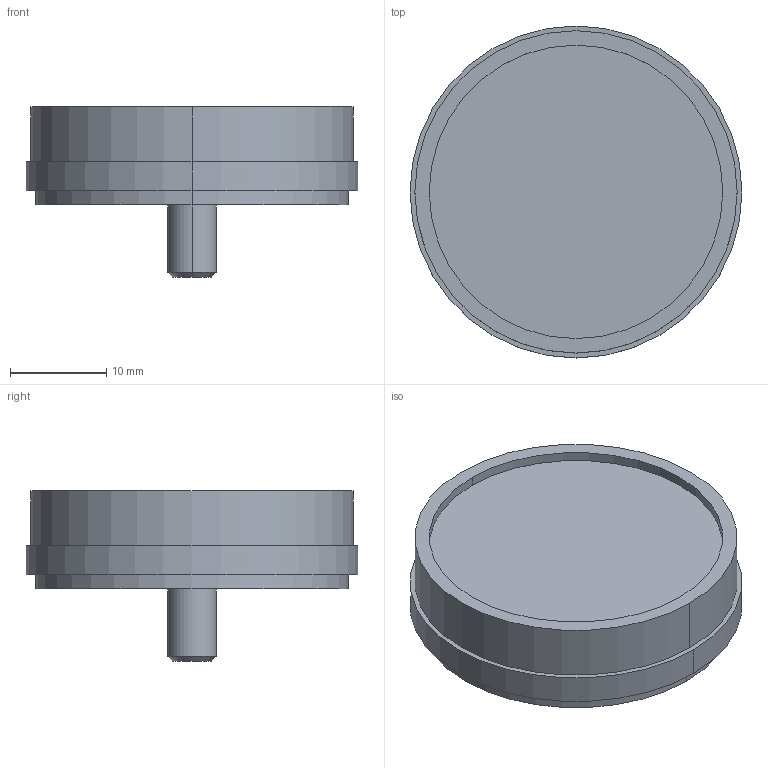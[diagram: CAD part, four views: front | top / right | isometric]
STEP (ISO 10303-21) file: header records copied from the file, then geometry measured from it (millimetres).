
FILE_DESCRIPTION( ( '' ), '1' );
FILE_NAME( '//expscmdclustefs.cadenas.external/client_exchange/iodir/jobs/output/wkb55326711_no0/STEP/E20954_2_03.stp', '2013-03-08T10:30:01', ( '' ), ( '' ), ' ', ' ', ' ' );
FILE_SCHEMA( ( 'CONFIG_CONTROL_DESIGN' ) );
Length unit declared in the file: millimetre
Products named in the file (1): 1
Bounding box: 34.5 x 34.5 x 17.7 mm (x, y, z)
Volume: 7395.7 mm3; surface area: 3306.7 mm2
Topology: 1 solids, 1 shells, 24 faces, 46 edges, 30 vertices
Faces by surface type: cylinder 10, plane 8, cone 6
Entity records: 668 total; most frequent: DIRECTION 126, CARTESIAN_POINT 101, ORIENTED_EDGE 92, AXIS2_PLACEMENT_3D 55, EDGE_CURVE 46, EDGE_LOOP 30, VERTEX_POINT 30, CIRCLE 30
